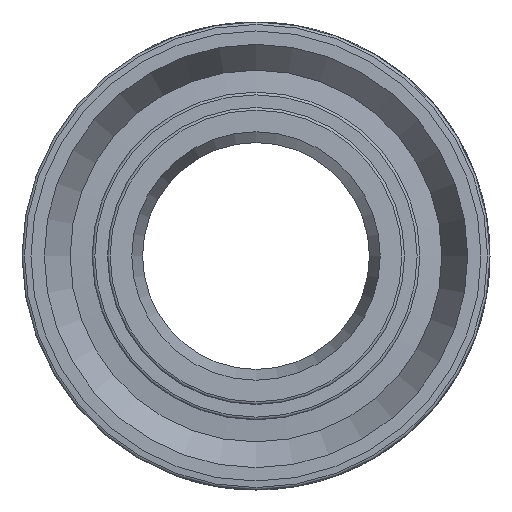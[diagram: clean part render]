
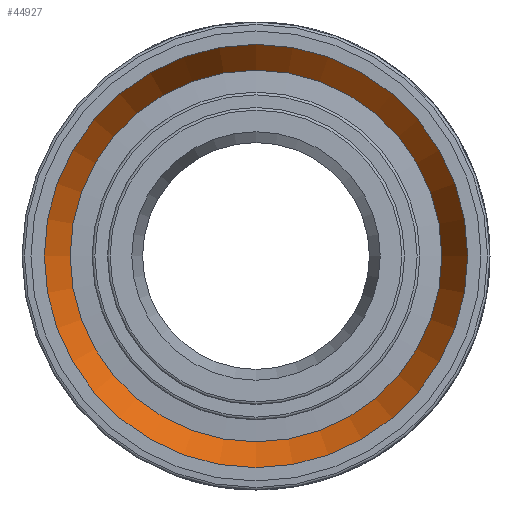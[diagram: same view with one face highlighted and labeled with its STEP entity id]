
A CAD part, left-side view. The second image highlights one B-rep face of the part: STEP entity #44927.
In plain terms, the highlighted conical face has half-angle 28.167 degrees and reference radius 11.043 mm.
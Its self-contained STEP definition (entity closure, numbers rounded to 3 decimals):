
#21=CONICAL_SURFACE('',#46854,11.043,0.492);
#7715=FACE_OUTER_BOUND('',#10426,.T.);
#10426=EDGE_LOOP('',(#41792,#41793,#41794,#41795,#41796,#41797));
#13423=LINE('',#103973,#16350);
#16350=VECTOR('',#53676,11.043);
#17214=CIRCLE('',#46852,10.325);
#17215=CIRCLE('',#46853,10.325);
#17216=CIRCLE('',#46855,11.76);
#17217=CIRCLE('',#46856,11.76);
#21779=VERTEX_POINT('',#103966);
#21780=VERTEX_POINT('',#103968);
#21781=VERTEX_POINT('',#103972);
#21782=VERTEX_POINT('',#103974);
#28498=EDGE_CURVE('',#21780,#21779,#17214,.T.);
#28499=EDGE_CURVE('',#21779,#21780,#17215,.T.);
#28500=EDGE_CURVE('',#21779,#21781,#13423,.T.);
#28501=EDGE_CURVE('',#21782,#21781,#17216,.T.);
#28502=EDGE_CURVE('',#21781,#21782,#17217,.T.);
#41792=ORIENTED_EDGE('',*,*,#28498,.T.);
#41793=ORIENTED_EDGE('',*,*,#28500,.T.);
#41794=ORIENTED_EDGE('',*,*,#28501,.F.);
#41795=ORIENTED_EDGE('',*,*,#28502,.F.);
#41796=ORIENTED_EDGE('',*,*,#28500,.F.);
#41797=ORIENTED_EDGE('',*,*,#28499,.T.);
#44927=ADVANCED_FACE('',(#7715),#21,.F.);
#46852=AXIS2_PLACEMENT_3D('',#103969,#53670,#53671);
#46853=AXIS2_PLACEMENT_3D('',#103970,#53672,#53673);
#46854=AXIS2_PLACEMENT_3D('',#103971,#53674,#53675);
#46855=AXIS2_PLACEMENT_3D('',#103975,#53677,#53678);
#46856=AXIS2_PLACEMENT_3D('',#103976,#53679,#53680);
#53670=DIRECTION('center_axis',(1.,0.,0.));
#53671=DIRECTION('ref_axis',(0.,0.,-1.));
#53672=DIRECTION('center_axis',(1.,0.,0.));
#53673=DIRECTION('ref_axis',(0.,0.,-1.));
#53674=DIRECTION('center_axis',(-1.,0.,0.));
#53675=DIRECTION('ref_axis',(0.,1.,0.));
#53676=DIRECTION('',(-0.882,-0.472,0.));
#53677=DIRECTION('center_axis',(1.,0.,0.));
#53678=DIRECTION('ref_axis',(0.,0.,-1.));
#53679=DIRECTION('center_axis',(1.,0.,0.));
#53680=DIRECTION('ref_axis',(0.,0.,-1.));
#103966=CARTESIAN_POINT('',(-28.331,-10.325,0.));
#103968=CARTESIAN_POINT('',(-28.331,10.325,0.));
#103969=CARTESIAN_POINT('Origin',(-28.331,0.,0.));
#103970=CARTESIAN_POINT('Origin',(-28.331,0.,0.));
#103971=CARTESIAN_POINT('Origin',(-29.671,0.,0.));
#103972=CARTESIAN_POINT('',(-31.011,-11.76,0.));
#103973=CARTESIAN_POINT('',(-29.671,-11.043,0.));
#103974=CARTESIAN_POINT('',(-31.011,11.76,0.));
#103975=CARTESIAN_POINT('Origin',(-31.011,0.,0.));
#103976=CARTESIAN_POINT('Origin',(-31.011,0.,0.));
